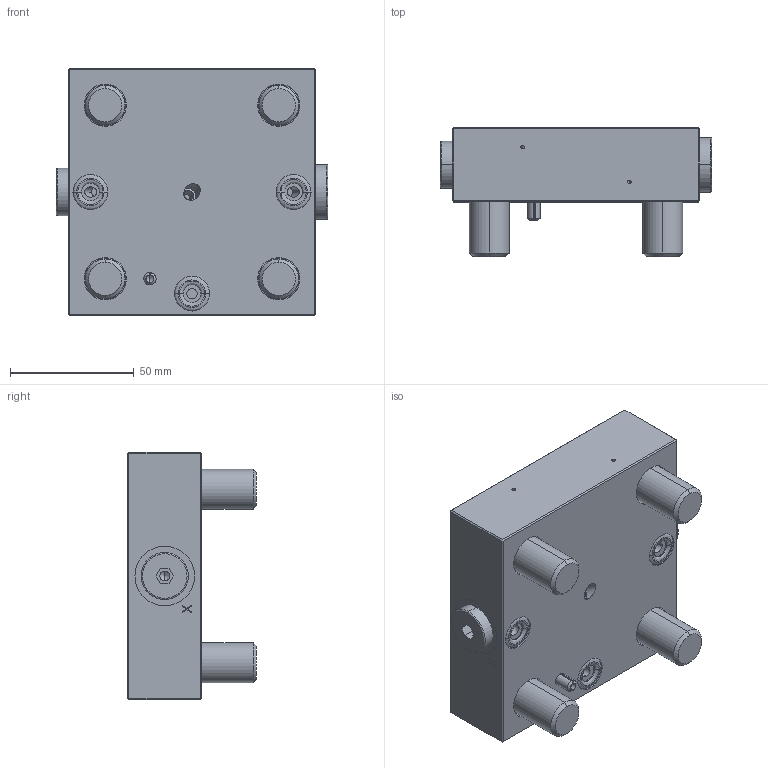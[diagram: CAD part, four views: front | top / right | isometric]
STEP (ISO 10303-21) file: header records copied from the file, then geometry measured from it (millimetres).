
FILE_DESCRIPTION (( 'STEP AP214' ), '1' );
FILE_NAME ('D3243..STEP', '2017-03-17T14:55:28', ( '' ), ( '' ), 'SwSTEP 2.0', 'SolidWorks 2016', '' );
FILE_SCHEMA (( 'AUTOMOTIVE_DESIGN' ));
Length unit declared in the file: millimetre
Products named in the file (1): D3243.
Bounding box: 109.4 x 52 x 100 mm (x, y, z)
Volume: 302629.3 mm3; surface area: 60864.8 mm2
Topology: 12 solids, 15 shells, 367 faces, 818 edges, 498 vertices
Faces by surface type: plane 155, cylinder 120, cone 44, bspline 24, torus 20, sphere 4
Entity records: 14345 total; most frequent: CARTESIAN_POINT 2164, DIRECTION 1792, ORIENTED_EDGE 1588, EDGE_CURVE 794, AXIS2_PLACEMENT_3D 702, VERTEX_POINT 498, EDGE_LOOP 430, LINE 388
